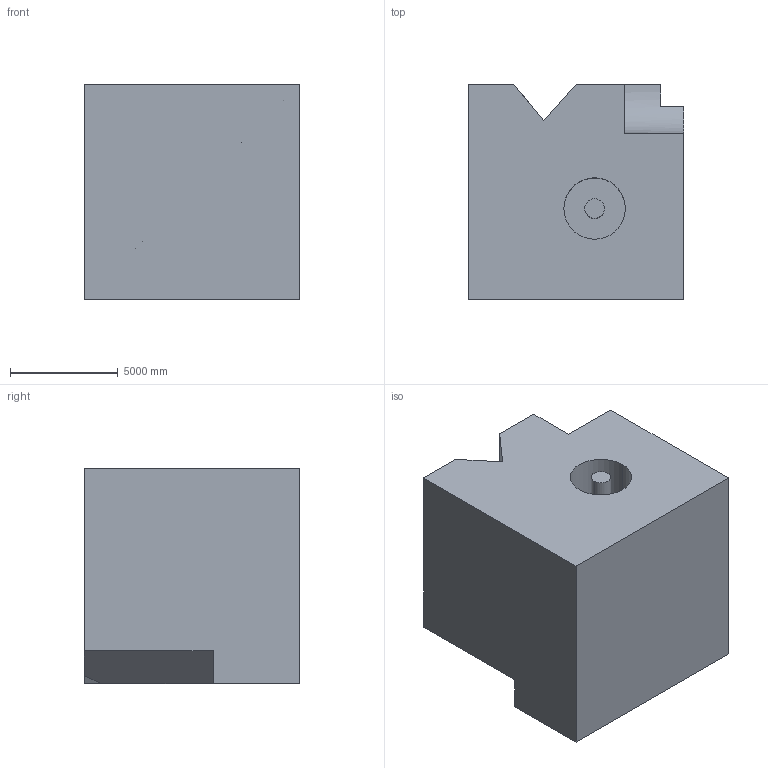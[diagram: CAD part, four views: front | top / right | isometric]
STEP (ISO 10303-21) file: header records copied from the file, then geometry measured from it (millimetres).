
FILE_DESCRIPTION (( 'STEP AP203' ), '1' );
FILE_NAME ('574.STEP', '2022-07-29T11:53:36', ( 'user' ), ( '' ), 'SwSTEP 2.0', 'SolidWorks 2021', '' );
FILE_SCHEMA (( 'CONFIG_CONTROL_DESIGN' ));
Length unit declared in the file: centimetre
Products named in the file (1): 574
Bounding box: 10000 x 10000 x 10000 mm (x, y, z)
Volume: 878583338605.5 mm3; surface area: 688376316.8 mm2
Topology: 1 solids, 1 shells, 23 faces, 57 edges, 38 vertices
Faces by surface type: plane 17, cylinder 6
Entity records: 762 total; most frequent: DIRECTION 119, CARTESIAN_POINT 119, ORIENTED_EDGE 114, EDGE_CURVE 57, LINE 43, VECTOR 43, VERTEX_POINT 38, AXIS2_PLACEMENT_3D 38
